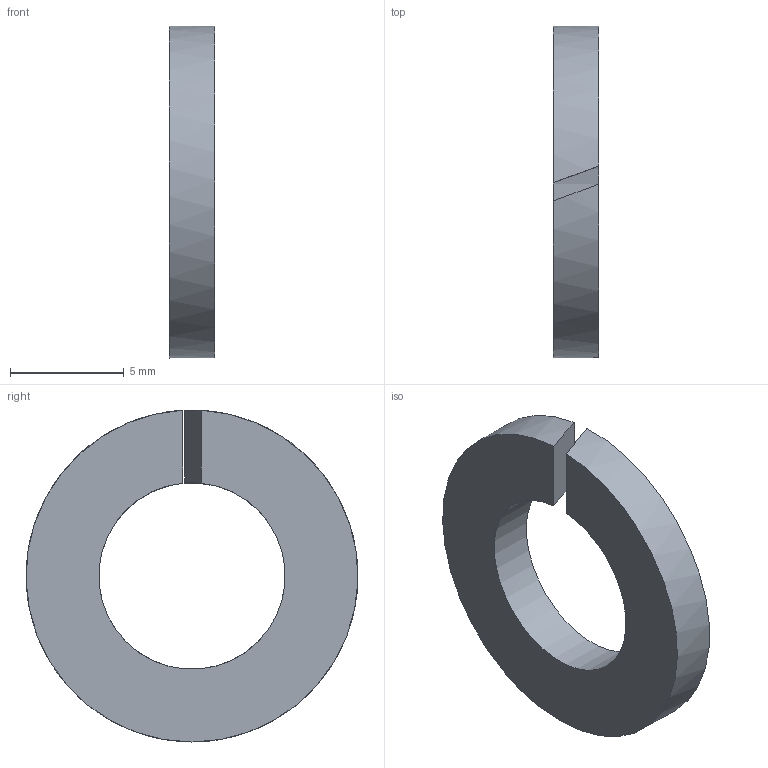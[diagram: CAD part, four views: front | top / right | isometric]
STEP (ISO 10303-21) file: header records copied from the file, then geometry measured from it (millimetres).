
FILE_DESCRIPTION(/* description */ ('스프링 잠금 와셔'),/* implementation_level */ '2;1');
FILE_NAME(/* name */ '',/* time_stamp */ '2025-06-11T17:32:08+09:00',/* author */ ('jhkim'),/* organization */ (''),/* preprocessor_version */ 'ST-DEVELOPER v20.1',/* originating_system */ 'Autodesk Inventor 2026',/* authorisation */ '');
FILE_SCHEMA (('AUTOMOTIVE_DESIGN { 1 0 10303 214 3 1 1 }'));
Length unit declared in the file: millimetre
Products named in the file (1): 스프링 와셔 M8
Bounding box: 2 x 14.59 x 14.6 mm (x, y, z)
Volume: 224.1 mm3; surface area: 377.8 mm2
Topology: 1 solids, 1 shells, 6 faces, 12 edges, 8 vertices
Faces by surface type: plane 4, cylinder 2
Entity records: 207 total; most frequent: DIRECTION 34, CARTESIAN_POINT 27, ORIENTED_EDGE 24, AXIS2_PLACEMENT_3D 15, EDGE_CURVE 12, VERTEX_POINT 8, FACE_OUTER_BOUND 6, EDGE_LOOP 6
